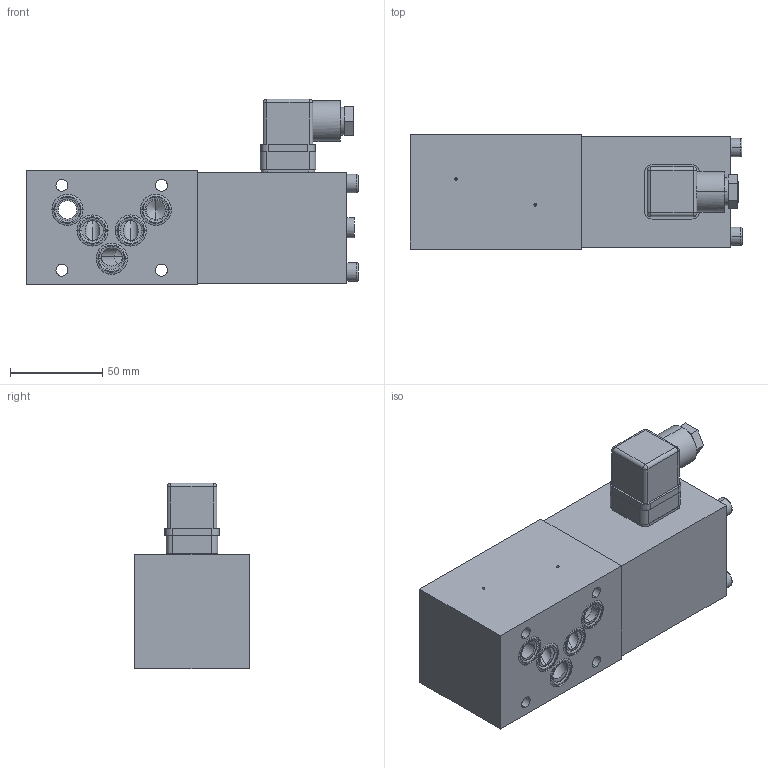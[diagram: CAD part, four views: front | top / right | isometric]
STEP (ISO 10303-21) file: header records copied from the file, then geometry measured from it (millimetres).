
FILE_DESCRIPTION (( 'STEP AP214' ), '1' );
FILE_NAME ('Z.22101P.STEP', '2017-03-08T09:09:19', ( '' ), ( '' ), 'SwSTEP 2.0', 'SolidWorks 2016', '' );
FILE_SCHEMA (( 'AUTOMOTIVE_DESIGN' ));
Length unit declared in the file: millimetre
Products named in the file (1): Z.22101P
Bounding box: 180.2 x 62 x 100.8 mm (x, y, z)
Volume: 659952.1 mm3; surface area: 89735.3 mm2
Topology: 12 solids, 19 shells, 630 faces, 1596 edges, 1011 vertices
Faces by surface type: plane 305, cylinder 207, cone 56, bspline 46, torus 16
Entity records: 26720 total; most frequent: CARTESIAN_POINT 4529, DIRECTION 3199, ORIENTED_EDGE 3120, EDGE_CURVE 1560, AXIS2_PLACEMENT_3D 1151, VERTEX_POINT 1011, LINE 897, VECTOR 897
